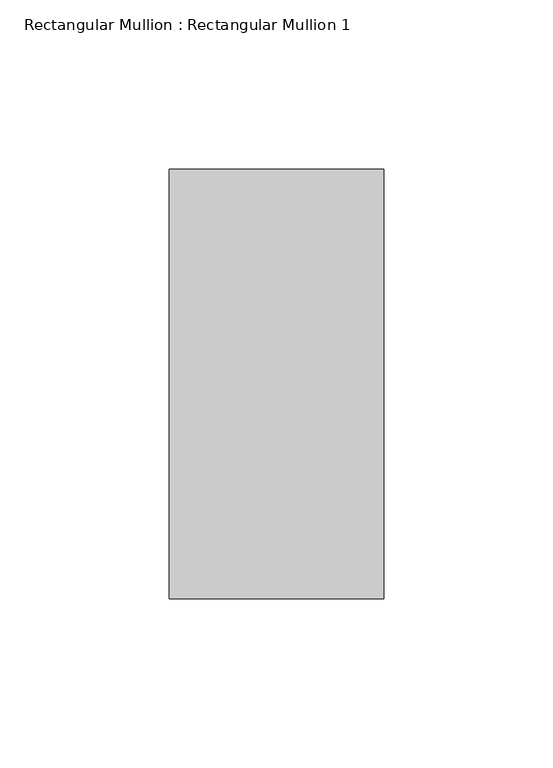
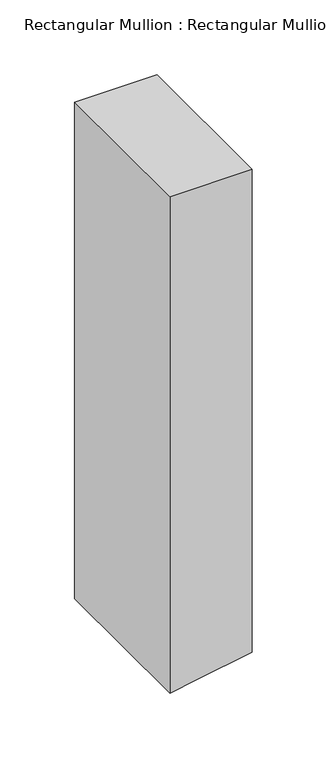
"""IFC4 building model written with IfcOpenShell, lengths in millimetres: member geometry, Rectangular Mullion : Rectangular Mullion 1."""

from ifc_helpers import new_model, si_unit, frame, origin, place, context, project, spatial, polyline, outline, extrude, source, transform, mapped, element, save


def rectangular_mullion_rectangular_mullion_1_dd701887(model_context):
    return source(origin(), model_context, "Body", "SweptSolid", [
        extrude(outline(polyline([(0.0, 31.75), (0.0, -31.75), (-404.3920484, -31.75), (-400.7379643, -11.0266593), (-393.1952851, 31.75), (0.0, 31.75)])), frame((0.0, -63.5, 0.0), z_axis=(0.0, 1.0, 0.0), x_axis=(0.0, 0.0, 1.0)), (0.0, 0.0, 1.0), 127.0),
    ])


if __name__ == "__main__":
    model = new_model("IFC4")
    model_context = context("Model", 3, world=origin())
    ifc_project = project(units=[si_unit("LENGTHUNIT", "METRE", prefix="MILLI")], contexts=[model_context])
    site = spatial("IfcSite", under=ifc_project)
    building = spatial("IfcBuilding", under=site)
    placement = place(None, origin())
    rectangular_mullion_rectangular_mullion_1_shape = rectangular_mullion_rectangular_mullion_1_dd701887(model_context)
    element("IfcMember", 1, ObjectType="Rectangular Mullion : Rectangular Mullion 1", at=placement, inside=building, context=model_context, shape_type="MappedRepresentation", body=[
        mapped(rectangular_mullion_rectangular_mullion_1_shape, transform((0.0, 0.0, 0.0), x_axis=(1.0, 0.0, 0.0), y_axis=(0.0, 1.0, 0.0), z_axis=(0.0, 0.0, 1.0))),
    ])
    save(model, "model.ifc")
